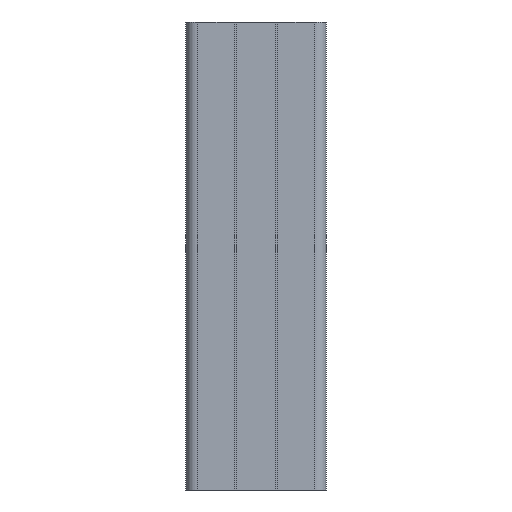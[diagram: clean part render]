
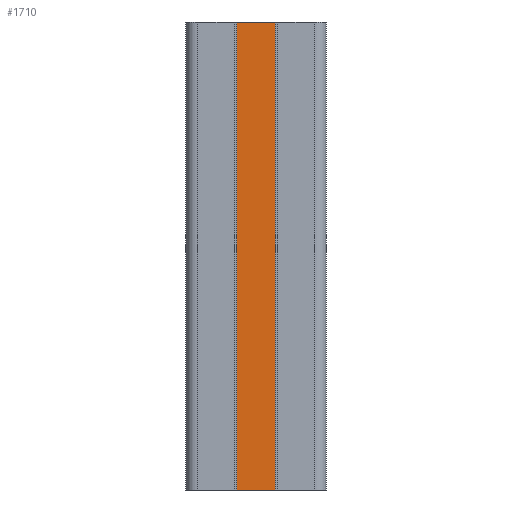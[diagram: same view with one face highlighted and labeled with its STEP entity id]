
A CAD part, left-side view. The second image highlights one B-rep face of the part: STEP entity #1710.
In plain terms, the highlighted planar face has unit normal (-1, 0, 0).
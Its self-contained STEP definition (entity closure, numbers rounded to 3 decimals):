
#11 = VERTEX_POINT ( 'NONE', #253 ) ;
#65 = DIRECTION ( 'NONE',  ( 0., 0., 1. ) ) ;
#167 = DIRECTION ( 'NONE',  ( 0., 1., 0. ) ) ;
#180 = VERTEX_POINT ( 'NONE', #1629 ) ;
#213 = DIRECTION ( 'NONE',  ( 1., 0., 0. ) ) ;
#253 = CARTESIAN_POINT ( 'NONE',  ( -5.8, -4.385, 0. ) ) ;
#329 = ORIENTED_EDGE ( 'NONE', *, *, #1536, .T. ) ;
#385 = EDGE_CURVE ( 'NONE', #1158, #2503, #1887, .T. ) ;
#431 = EDGE_CURVE ( 'NONE', #1158, #11, #1829, .T. ) ;
#537 = CARTESIAN_POINT ( 'NONE',  ( -5.8, -4.385, -100. ) ) ;
#569 = CARTESIAN_POINT ( 'NONE',  ( -5.8, 4.385, -100. ) ) ;
#626 = ORIENTED_EDGE ( 'NONE', *, *, #431, .T. ) ;
#658 = DIRECTION ( 'NONE',  ( 0., 1., 0. ) ) ;
#687 = CARTESIAN_POINT ( 'NONE',  ( -5.8, 4.385, -100. ) ) ;
#883 = VECTOR ( 'NONE', #65, 1000. ) ;
#904 = LINE ( 'NONE', #687, #883 ) ;
#906 = EDGE_CURVE ( 'NONE', #2503, #180, #904, .T. ) ;
#987 = AXIS2_PLACEMENT_3D ( 'NONE', #1493, #213, #1687 ) ;
#1158 = VERTEX_POINT ( 'NONE', #1892 ) ;
#1186 = DIRECTION ( 'NONE',  ( 0., 0., 1. ) ) ;
#1493 = CARTESIAN_POINT ( 'NONE',  ( -5.8, 4.385, -100. ) ) ;
#1534 = ORIENTED_EDGE ( 'NONE', *, *, #906, .F. ) ;
#1536 = EDGE_CURVE ( 'NONE', #11, #180, #2444, .T. ) ;
#1629 = CARTESIAN_POINT ( 'NONE',  ( -5.8, 4.385, 0. ) ) ;
#1687 = DIRECTION ( 'NONE',  ( 0., 1., 0. ) ) ;
#1710 = ADVANCED_FACE ( 'NONE', ( #2065 ), #2390, .F. ) ;
#1829 = LINE ( 'NONE', #537, #1832 ) ;
#1832 = VECTOR ( 'NONE', #1186, 1000. ) ;
#1852 = VECTOR ( 'NONE', #167, 1000. ) ;
#1887 = LINE ( 'NONE', #2165, #1852 ) ;
#1892 = CARTESIAN_POINT ( 'NONE',  ( -5.8, -4.385, -100. ) ) ;
#2065 = FACE_OUTER_BOUND ( 'NONE', #2529, .T. ) ;
#2069 = CARTESIAN_POINT ( 'NONE',  ( -5.8, 4.385, 0. ) ) ;
#2165 = CARTESIAN_POINT ( 'NONE',  ( -5.8, 4.385, -100. ) ) ;
#2390 = PLANE ( 'NONE',  #987 ) ;
#2411 = VECTOR ( 'NONE', #658, 1000. ) ;
#2444 = LINE ( 'NONE', #2069, #2411 ) ;
#2503 = VERTEX_POINT ( 'NONE', #569 ) ;
#2529 = EDGE_LOOP ( 'NONE', ( #329, #1534, #2590, #626 ) ) ;
#2590 = ORIENTED_EDGE ( 'NONE', *, *, #385, .F. ) ;
